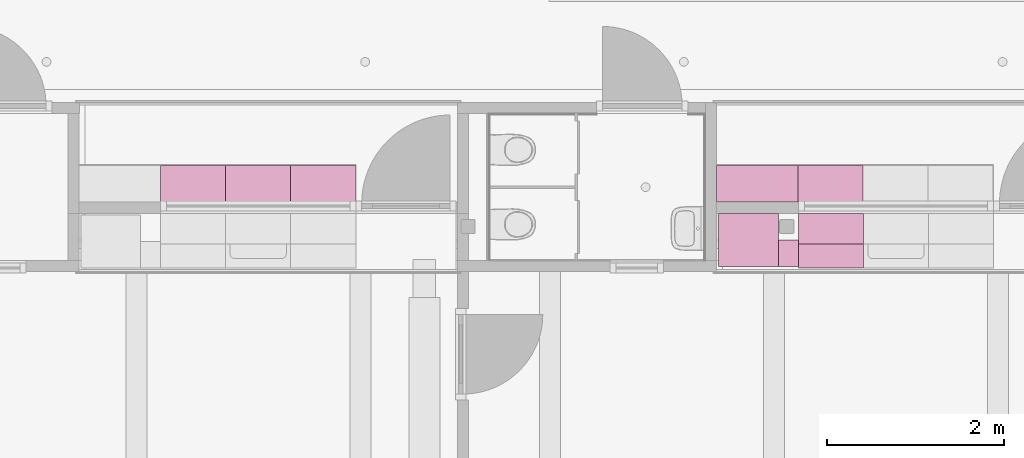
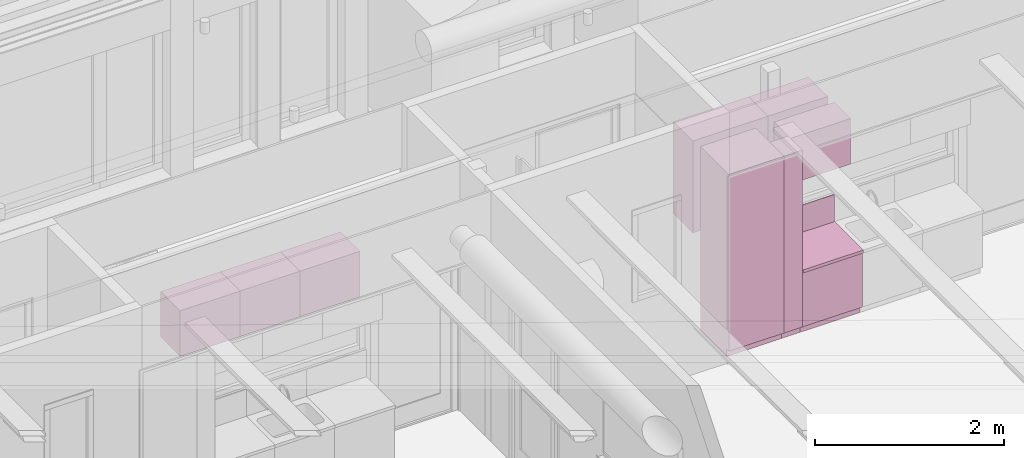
# One storey, part 88 of 128: 8 furnishings.
"""IFC2X3 building model written with IfcOpenShell, lengths in millimetres."""

from ifc_helpers import new_model, entity, si_unit, converted_unit, derived_unit, direction, frame, origin, origin_2d_with_axis, place, context, subcontext, project, spatial, polyline, rectangle, outline, extrude, source, transform, mapped, material, type_object, type_shapes, element, save


model = new_model("IFC2X3")

# Units and contexts
model_context = context("Model", 3, precision=0.01, world=origin(), true_north=direction((6.123031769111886e-17, 1.0)))
body_context = subcontext(model_context, "Body", "Model", "MODEL_VIEW")
ifc_project = project(units=[si_unit("LENGTHUNIT", "METRE", prefix="MILLI"), si_unit("AREAUNIT", "SQUARE_METRE"), si_unit("VOLUMEUNIT", "CUBIC_METRE"), converted_unit("PLANEANGLEUNIT", "DEGREE", entity("IfcRatioMeasure", 0.017453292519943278), si_unit("PLANEANGLEUNIT", "RADIAN"), dimensions=[0, 0, 0, 0, 0, 0, 0]), si_unit("MASSUNIT", "GRAM", prefix="KILO"), derived_unit("MASSDENSITYUNIT", [(si_unit("MASSUNIT", "GRAM", prefix="KILO"), 1), (si_unit("LENGTHUNIT", "METRE"), -3)]), derived_unit("IONCONCENTRATIONUNIT", [(si_unit("MASSUNIT", "GRAM", prefix="KILO"), 1), (si_unit("LENGTHUNIT", "METRE"), -3)]), derived_unit("MOMENTOFINERTIAUNIT", [(si_unit("LENGTHUNIT", "METRE"), 4)]), si_unit("TIMEUNIT", "SECOND"), si_unit("FREQUENCYUNIT", "HERTZ"), si_unit("THERMODYNAMICTEMPERATUREUNIT", "DEGREE_CELSIUS"), derived_unit("THERMALTRANSMITTANCEUNIT", [(si_unit("MASSUNIT", "GRAM", prefix="KILO"), 1), (si_unit("THERMODYNAMICTEMPERATUREUNIT", "KELVIN"), -1), (si_unit("TIMEUNIT", "SECOND"), -3)]), derived_unit("THERMALCONDUCTANCEUNIT", [(si_unit("MASSUNIT", "GRAM", prefix="KILO"), 1), (si_unit("THERMODYNAMICTEMPERATUREUNIT", "KELVIN"), -1), (si_unit("TIMEUNIT", "SECOND"), -3), (si_unit("LENGTHUNIT", "METRE"), 1)]), derived_unit("VOLUMETRICFLOWRATEUNIT", [(si_unit("LENGTHUNIT", "METRE"), 3), (si_unit("TIMEUNIT", "SECOND"), -1)]), derived_unit("MASSFLOWRATEUNIT", [(si_unit("MASSUNIT", "GRAM", prefix="KILO"), 1), (si_unit("TIMEUNIT", "SECOND"), -1)]), derived_unit("ROTATIONALFREQUENCYUNIT", [(si_unit("TIMEUNIT", "SECOND"), -1)]), si_unit("ELECTRICCURRENTUNIT", "AMPERE"), si_unit("ELECTRICVOLTAGEUNIT", "VOLT"), si_unit("POWERUNIT", "WATT"), si_unit("FORCEUNIT", "NEWTON", prefix="KILO"), si_unit("ILLUMINANCEUNIT", "LUX"), si_unit("LUMINOUSFLUXUNIT", "LUMEN"), si_unit("LUMINOUSINTENSITYUNIT", "CANDELA"), derived_unit("USERDEFINED", [(si_unit("MASSUNIT", "GRAM", prefix="KILO"), -1), (si_unit("LENGTHUNIT", "METRE"), -2), (si_unit("TIMEUNIT", "SECOND"), 3), (si_unit("LUMINOUSFLUXUNIT", "LUMEN"), 1)]), derived_unit("USERDEFINED", [(si_unit("MASSUNIT", "GRAM", prefix="KILO"), 1), (si_unit("TIMEUNIT", "SECOND"), -3), (si_unit("LENGTHUNIT", "METRE"), 3), (si_unit("ELECTRICCURRENTUNIT", "AMPERE"), -2)]), derived_unit("SOUNDPOWERUNIT", [(si_unit("MASSUNIT", "GRAM", prefix="KILO"), 1), (si_unit("TIMEUNIT", "SECOND"), -3), (si_unit("LENGTHUNIT", "METRE"), 2)]), derived_unit("SOUNDPRESSUREUNIT", [(si_unit("MASSUNIT", "GRAM", prefix="KILO"), 1), (si_unit("LENGTHUNIT", "METRE"), -1), (si_unit("TIMEUNIT", "SECOND"), -2)]), derived_unit("LINEARVELOCITYUNIT", [(si_unit("LENGTHUNIT", "METRE"), 1), (si_unit("TIMEUNIT", "SECOND"), -1)]), si_unit("PRESSUREUNIT", "PASCAL"), derived_unit("USERDEFINED", [(si_unit("MASSUNIT", "GRAM", prefix="KILO"), 1), (si_unit("LENGTHUNIT", "METRE"), -2), (si_unit("TIMEUNIT", "SECOND"), -2)]), derived_unit("LINEARFORCEUNIT", [(si_unit("MASSUNIT", "GRAM", prefix="KILO"), 1), (si_unit("TIMEUNIT", "SECOND"), -2)]), derived_unit("PLANARFORCEUNIT", [(si_unit("MASSUNIT", "GRAM", prefix="KILO"), 1), (si_unit("LENGTHUNIT", "METRE"), -1), (si_unit("TIMEUNIT", "SECOND"), -2)]), derived_unit("SPECIFICHEATCAPACITYUNIT", [(si_unit("THERMODYNAMICTEMPERATUREUNIT", "KELVIN"), -1), (si_unit("LENGTHUNIT", "METRE"), 2), (si_unit("TIMEUNIT", "SECOND"), -2)]), derived_unit("HEATINGVALUEUNIT", [(si_unit("LENGTHUNIT", "METRE"), 2), (si_unit("TIMEUNIT", "SECOND"), -2)]), derived_unit("VAPORPERMEABILITYUNIT", [(si_unit("LENGTHUNIT", "METRE"), -1), (si_unit("TIMEUNIT", "SECOND"), 1)]), derived_unit("DYNAMICVISCOSITYUNIT", [(si_unit("MASSUNIT", "GRAM", prefix="KILO"), 1), (si_unit("TIMEUNIT", "SECOND"), -1), (si_unit("LENGTHUNIT", "METRE"), -1)]), derived_unit("THERMALEXPANSIONCOEFFICIENTUNIT", [(si_unit("THERMODYNAMICTEMPERATUREUNIT", "KELVIN"), -1)]), derived_unit("MODULUSOFELASTICITYUNIT", [(si_unit("MASSUNIT", "GRAM", prefix="KILO"), 1), (si_unit("LENGTHUNIT", "METRE"), -1), (si_unit("TIMEUNIT", "SECOND"), -2)]), derived_unit("ISOTHERMALMOISTURECAPACITYUNIT", [(si_unit("LENGTHUNIT", "METRE"), 3), (si_unit("MASSUNIT", "GRAM", prefix="KILO"), -1)]), derived_unit("MOISTUREDIFFUSIVITYUNIT", [(si_unit("TIMEUNIT", "SECOND"), -1), (si_unit("LENGTHUNIT", "METRE"), 2)])], contexts=[model_context])

# Site, building, storey, space
site_placement = place(None, frame((0.0, 300.0, 0.0)))
site = spatial("IfcSite", under=ifc_project, at=site_placement, Name="<Kadastrale nummers>", CompositionType="ELEMENT")
building_placement = place(site_placement, origin())
building = spatial("IfcBuilding", under=site, at=building_placement, CompositionType="ELEMENT")
storey_placement = place(building_placement, frame((0.0, 0.0, 3560.0000331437)))
storey = spatial("IfcBuildingStorey", under=building, at=storey_placement, Name="01 eerste verdieping", CompositionType="ELEMENT", Elevation=3560.0000331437)
space_1_placement = place(storey_placement, origin())
space_1 = spatial("IfcSpace", under=storey, at=space_1_placement, Name="1.02", CompositionType="ELEMENT", InteriorOrExteriorSpace="INTERNAL")

# Furnishings
ifc_material = material(Name="ISR_HPL Kleur hout")
furniture_type_1 = type_object("IfcFurnitureType", Name="00_DAT Vaste inrichting Keukenkasten:Kast met Bovenkast bovenbouw", material=ifc_material)
shared_shape_1 = source(origin(), body_context, "Body", "SweptSolid", [
    extrude(rectangle(XDim=9.999999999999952, YDim=734.9999999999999, at=origin_2d_with_axis()), frame((367.49999999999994, 5.0, 850.0), z_axis=(0.0, 0.0, 1.0), x_axis=(0.0, -1.0, 0.0)), (0.0, 0.0, 1.0), 350.00000000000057),
    extrude(outline(polyline([(-440.5, 107.50000000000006), (-440.5, -442.4999999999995), (409.4999999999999, -442.4999999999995), (409.4999999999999, 177.49999999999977), (371.4999999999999, 177.49999999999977), (371.4999999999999, 157.49999999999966), (-340.4999999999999, 157.49999999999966), (-340.4999999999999, 107.50000000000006), (-440.5, 107.50000000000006)])), frame((0.0, 442.4999999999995, 440.5), z_axis=(-1.0, 0.0, 0.0), x_axis=(0.0, 0.0, 1.0)), (0.0, 0.0, -1.0), 735.0000000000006),
    extrude(rectangle(XDim=350.0, YDim=735.0000000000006, at=origin_2d_with_axis()), frame((367.5000000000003, 175.0, 1800.0), z_axis=(0.0, 0.0, 1.0), x_axis=(0.0, -1.0, 0.0)), (0.0, 0.0, 1.0), 590.0000000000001),
])
type_shapes(furniture_type_1, [shared_shape_1])
furnishing_1_placement = place(space_1_placement, frame((14666.0, 45450.0, 90.00000187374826), z_axis=(0.0, 0.0, 1.0), x_axis=(-1.0, 0.0, 0.0)))
element("IfcFurnishingElement", 1, at=furnishing_1_placement, inside=space_1, type_object=furniture_type_1, material=ifc_material, Name="00_DAT Vaste inrichting Keukenkasten:Kast met Bovenkast bovenbouw", ObjectType="00_DAT Vaste inrichting Keukenkasten:Kast met Bovenkast bovenbouw", context=body_context, shape_type="MappedRepresentation", body=[
    mapped(shared_shape_1, transform((0.0, 0.0, 0.0), scale=1.0)),
])
furniture_type_2 = type_object("IfcFurnitureType", Name="00_DAT Vaste inrichting Keukenkasten hoog:Hogekast Lokaal 675B", material=ifc_material)
shared_shape_2 = source(origin(), body_context, "Body", "SweptSolid", [
    extrude(outline(polyline([(-830.0, 166.66666666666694), (-830.0, -383.3333333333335), (1560.0, -383.3333333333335), (1560.0, 216.66666666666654), (-730.0, 216.66666666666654), (-730.0, 166.66666666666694), (-830.0, 166.66666666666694)])), frame((0.0, 383.3333333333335, 830.0), z_axis=(-1.0, 0.0, 0.0), x_axis=(0.0, 0.0, 1.0)), (0.0, 0.0, -1.0), 675.0000000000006),
])
type_shapes(furniture_type_2, [shared_shape_2])
furnishing_2_placement = place(space_1_placement, frame((13705.0, 45450.0, 90.00000187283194), z_axis=(0.0, 0.0, 1.0), x_axis=(-1.0, 0.0, 0.0)))
element("IfcFurnishingElement", 2, at=furnishing_2_placement, inside=space_1, type_object=furniture_type_2, material=ifc_material, Name="00_DAT Vaste inrichting Keukenkasten hoog:Hogekast Lokaal 675B", ObjectType="00_DAT Vaste inrichting Keukenkasten hoog:Hogekast Lokaal 675B", context=body_context, shape_type="MappedRepresentation", body=[
    mapped(shared_shape_2, transform((0.0, 0.0, 0.0), scale=1.0)),
])
furniture_type_3 = type_object("IfcFurnitureType", Name="00_DAT Vaste inrichting Keukenkasten hoog:Plaat hoge kast", material=ifc_material)
shared_shape_3 = source(origin(), body_context, "Body", "SweptSolid", [
    extrude(outline(polyline([(-830.0, 66.66666666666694), (-830.0, -183.33333333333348), (1560.0, -183.33333333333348), (1560.0, 116.66666666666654), (-730.0, 116.66666666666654), (-730.0, 66.66666666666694), (-830.0, 66.66666666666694)])), frame((0.0, 183.33333333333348, 830.0), z_axis=(-1.0, 0.0, 0.0), x_axis=(0.0, 0.0, 1.0)), (0.0, 0.0, -1.0), 226.00000000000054),
])
type_shapes(furniture_type_3, [shared_shape_3])
furnishing_3_placement = place(space_1_placement, frame((13931.0, 45150.0, 90.00000187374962), z_axis=(0.0, 0.0, 1.0), x_axis=(-1.0, 0.0, 0.0)))
element("IfcFurnishingElement", 3, at=furnishing_3_placement, inside=space_1, type_object=furniture_type_3, material=ifc_material, Name="00_DAT Vaste inrichting Keukenkasten hoog:Plaat hoge kast", ObjectType="00_DAT Vaste inrichting Keukenkasten hoog:Plaat hoge kast", context=body_context, shape_type="MappedRepresentation", body=[
    mapped(shared_shape_3, transform((0.0, 0.0, 0.0), scale=1.0)),
])

# Space
space_2_placement = place(storey_placement, origin())
space_2 = spatial("IfcSpace", under=storey, at=space_2_placement, Name="1.02a", CompositionType="ELEMENT", InteriorOrExteriorSpace="INTERNAL")

# Furnishing
furniture_type_4 = type_object("IfcFurnitureType", Name="00_DAT Vaste inrichting Boven Keukenkasten:Bovenkast Gaderobe bso", material=ifc_material)
shared_shape_4 = source(origin(), body_context, "Body", "SweptSolid", [
    extrude(rectangle(XDim=415.0, YDim=735.0000000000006, at=origin_2d_with_axis()), frame((367.5000000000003, 207.5, 1800.0), z_axis=(0.0, 0.0, 1.0), x_axis=(0.0, -1.0, 0.0)), (0.0, 0.0, 1.0), 589.9999999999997),
])
type_shapes(furniture_type_4, [shared_shape_4])
furnishing_4_placement = place(space_2_placement, frame((13926.0, 45575.0, 90.00000187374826)))
element("IfcFurnishingElement", 4, at=furnishing_4_placement, inside=space_2, type_object=furniture_type_4, material=ifc_material, Name="00_DAT Vaste inrichting Boven Keukenkasten:Bovenkast Gaderobe bso", ObjectType="00_DAT Vaste inrichting Boven Keukenkasten:Bovenkast Gaderobe bso", context=body_context, shape_type="MappedRepresentation", body=[
    mapped(shared_shape_4, transform((0.0, 0.0, 0.0), scale=1.0)),
])

# Space
space_3_placement = place(storey_placement, origin())
space_3 = spatial("IfcSpace", under=storey, at=space_3_placement, Name="1.01a", CompositionType="ELEMENT", InteriorOrExteriorSpace="INTERNAL")

# Furnishings
for number, where, name in (
    (5, (8196.0, 45575.0, 90.00000187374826), "00_DAT Vaste inrichting Boven Keukenkasten:Bovenkast Gaderobe bso"),
    (6, (6726.0, 45575.0, 90.00000187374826), "00_DAT Vaste inrichting Boven Keukenkasten:Bovenkast Gaderobe bso"),
):
    element("IfcFurnishingElement", number, at=place(space_3_placement, frame(where)), inside=space_3, type_object=furniture_type_4, material=ifc_material, Name=name, ObjectType="00_DAT Vaste inrichting Boven Keukenkasten:Bovenkast Gaderobe bso", context=body_context, shape_type="MappedRepresentation", body=[
        mapped(shared_shape_4, transform((0.0, 0.0, 0.0), scale=1.0)),
    ])
furniture_type_5 = type_object("IfcFurnitureType", Name="00_DAT Vaste inrichting Boven Keukenkasten:Bovenkast Gaderobe bso", material=ifc_material)
shared_shape_5 = source(origin(), body_context, "Body", "SweptSolid", [
    extrude(rectangle(XDim=415.0, YDim=735.0000000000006, at=origin_2d_with_axis()), frame((367.5000000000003, 207.5, 1800.0), z_axis=(0.0, 0.0, 1.0), x_axis=(0.0, -1.0, 0.0)), (0.0, 0.0, 1.0), 589.9999999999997),
])
type_shapes(furniture_type_5, [shared_shape_5])
furnishing_5_placement = place(space_3_placement, frame((7461.0, 45575.0, 90.00000187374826)))
element("IfcFurnishingElement", 7, at=furnishing_5_placement, inside=space_3, type_object=furniture_type_5, material=ifc_material, Name="00_DAT Vaste inrichting Boven Keukenkasten:Bovenkast Gaderobe bso", ObjectType="00_DAT Vaste inrichting Boven Keukenkasten:Bovenkast Gaderobe bso", context=body_context, shape_type="MappedRepresentation", body=[
    mapped(shared_shape_5, transform((0.0, 0.0, 0.0), scale=1.0)),
])
furniture_type_6 = type_object("IfcFurnitureType", Name="00_DAT Vaste inrichting Boven Keukenkasten:Bovenkast Gaderobe bso Hoog", material=ifc_material)
shared_shape_6 = source(origin(), body_context, "Body", "SweptSolid", [
    extrude(rectangle(XDim=415.0, YDim=920.0000000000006, at=origin_2d_with_axis()), frame((460.0, 207.5, 1200.0), z_axis=(0.0, 0.0, 1.0), x_axis=(0.0, -1.0, 0.0)), (0.0, 0.0, 1.0), 1189.9999999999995),
])
type_shapes(furniture_type_6, [shared_shape_6])
furnishing_6_placement = place(space_2_placement, frame((13006.0, 45575.0, 90.00000187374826)))
element("IfcFurnishingElement", 8, at=furnishing_6_placement, inside=space_2, type_object=furniture_type_6, material=ifc_material, Name="00_DAT Vaste inrichting Boven Keukenkasten:Bovenkast Gaderobe bso Hoog", ObjectType="00_DAT Vaste inrichting Boven Keukenkasten:Bovenkast Gaderobe bso Hoog", context=body_context, shape_type="MappedRepresentation", body=[
    mapped(shared_shape_6, transform((0.0, 0.0, 0.0), scale=1.0)),
])

save(model, "model.ifc")
